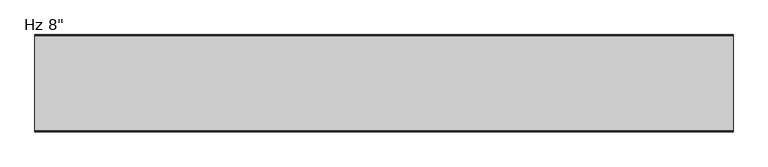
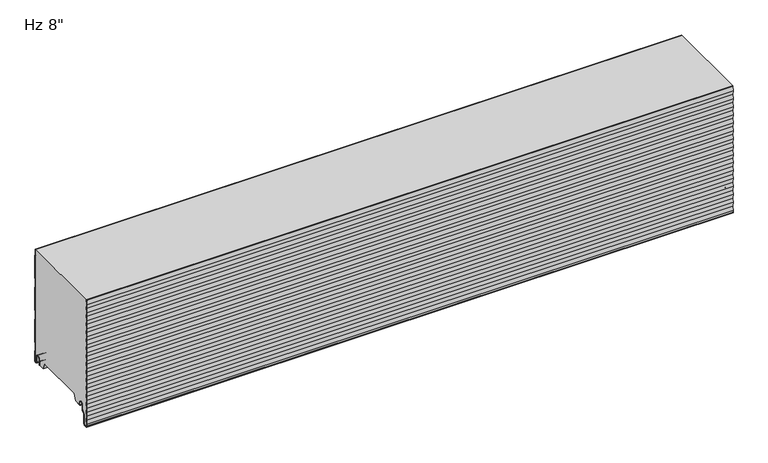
"""IFC4 building model written with IfcOpenShell, lengths in millimetres: plate geometry."""

import ifcopenshell
import ifcopenshell.guid

model = None  # the IFC model being written
_history = None  # IfcOwnerHistory: only IFC2X3 demands one
_inside = {}  # id of a spatial element -> (the spatial element, [elements in it])
_under = {}  # id of a project, library or spatial element -> (it, [spatial elements below it])
_declared = {}  # id of a project -> (the project, [libraries it declares])
_typed = {}  # id of a type object -> (the type object, [elements of that type])
_made_of = {}  # id of a material, layer set ... -> (it, [elements and type objects made of it])


def new_model(schema):
    """Start an empty IFC model of exactly this schema.

    Asked for "IFC4X3", IfcOpenShell would pick the latest addendum, in which some entities
    have other attributes; the version numbers below select the first issue.
    IFC2X3 requires an IfcOwnerHistory on every rooted entity: one is made here for all.
    """
    global model, _history
    if schema == "IFC4X3":
        model = ifcopenshell.file(schema_version=(4, 3, 0, 0))
    else:
        model = ifcopenshell.file(schema=schema)
    _inside.clear()
    _under.clear()
    _declared.clear()
    _typed.clear()
    _made_of.clear()
    _history = None
    if model.schema == "IFC2X3":
        org = make("IfcOrganization", Name="unknown")
        user = make(
            "IfcPersonAndOrganization",
            ThePerson=make("IfcPerson", FamilyName="unknown"),
            TheOrganization=org,
        )
        app = make(
            "IfcApplication",
            ApplicationDeveloper=org,
            Version="unknown",
            ApplicationFullName="unknown",
            ApplicationIdentifier="unknown",
        )
        _history = make(
            "IfcOwnerHistory",
            OwningUser=user,
            OwningApplication=app,
            ChangeAction="ADDED",
            CreationDate=0,
        )
    return model


def make(cls, **values):
    """One entity of the class cls with the attributes given. An attribute that is None is left unset."""
    return model.create_entity(
        cls, **{name: value for name, value in values.items() if value is not None}
    )


def rooted(cls, **values):
    """An entity with a GlobalId (a new one), such as an element, a storey or a relation."""
    return make(cls, GlobalId=ifcopenshell.guid.new(), OwnerHistory=_history, **values)


def si_unit(unit_type, name, prefix=None):
    """IfcSIUnit, for example si_unit("LENGTHUNIT", "METRE", prefix="MILLI")."""
    return make("IfcSIUnit", UnitType=unit_type, Prefix=prefix, Name=name)


def assignment(units):
    """IfcUnitAssignment: the units of a project."""
    return None if units is None else make("IfcUnitAssignment", Units=units)


def point(xyz):
    """IfcCartesianPoint."""
    return None if xyz is None else make("IfcCartesianPoint", Coordinates=xyz)


def direction(xyz):
    """IfcDirection."""
    return None if xyz is None else make("IfcDirection", DirectionRatios=xyz)


def frame(location, z_axis=None, x_axis=None):
    """IfcAxis2Placement3D, a coordinate frame: its origin and axes. An axis left out is left unset."""
    return make(
        "IfcAxis2Placement3D",
        Location=point(location),
        Axis=direction(z_axis),
        RefDirection=direction(x_axis),
    )


def frame_2d(location, x_axis=None):
    """IfcAxis2Placement2D, a coordinate frame in the plane: its origin and x axis."""
    return make(
        "IfcAxis2Placement2D", Location=point(location), RefDirection=direction(x_axis)
    )


def origin():
    """The frame at (0, 0, 0) with its axes left unset."""
    return frame((0.0, 0.0, 0.0))


def place(relative_to, where):
    """IfcLocalPlacement: puts the frame where relative to a parent placement (None: the world)."""
    return make(
        "IfcLocalPlacement", PlacementRelTo=relative_to, RelativePlacement=where
    )


def context(
    kind, dimensions, precision=None, world=None, true_north=None, identifier=None
):
    """IfcGeometricRepresentationContext, for example the 3D "Model" context."""
    return make(
        "IfcGeometricRepresentationContext",
        ContextIdentifier=identifier,
        ContextType=kind,
        CoordinateSpaceDimension=dimensions,
        Precision=precision,
        WorldCoordinateSystem=world,
        TrueNorth=true_north,
    )


def project(units=None, contexts=None):
    """IfcProject with its units and contexts."""
    return rooted(
        "IfcProject",
        Name="project",
        RepresentationContexts=contexts,
        UnitsInContext=assignment(units),
    )


def spatial(cls, under=None, at=None, **own):
    """A site, building, storey or space (cls), placed at a placement, below another one or the project."""
    s = rooted(cls, ObjectPlacement=at, **own)
    if under is not None:
        _under.setdefault(under.id(), (under, []))[1].append(s)
    return s


def polyline(points):
    """IfcPolyline through the points."""
    return make("IfcPolyline", Points=[point(p) for p in points])


def circle_curve(where, radius):
    """IfcCircle in the frame where."""
    return make("IfcCircle", Position=where, Radius=radius)


def trimmed(basis, trim1, trim2, sense, master):
    """IfcTrimmedCurve: the piece of a basis curve between two trims."""
    return make(
        "IfcTrimmedCurve",
        BasisCurve=basis,
        Trim1=trim1,
        Trim2=trim2,
        SenseAgreement=sense,
        MasterRepresentation=master,
    )


def segment(curve, same_sense, transition):
    """IfcCompositeCurveSegment."""
    return make(
        "IfcCompositeCurveSegment",
        Transition=transition,
        SameSense=same_sense,
        ParentCurve=curve,
    )


def composite_curve(segments, self_intersect=None):
    """IfcCompositeCurve: segments joined end to end."""
    return make("IfcCompositeCurve", Segments=segments, SelfIntersect=self_intersect)


def outline(outer, holes=None, kind="AREA"):
    """IfcArbitraryClosedProfileDef: a profile drawn as a closed curve; with holes, ...WithVoids."""
    if holes is None:
        return make("IfcArbitraryClosedProfileDef", ProfileType=kind, OuterCurve=outer)
    return make(
        "IfcArbitraryProfileDefWithVoids",
        ProfileType=kind,
        OuterCurve=outer,
        InnerCurves=holes,
    )


def extrude(swept, where, along, depth):
    """IfcExtrudedAreaSolid: the profile swept, set in the frame where, extruded along a direction by depth."""
    return make(
        "IfcExtrudedAreaSolid",
        SweptArea=swept,
        Position=where,
        ExtrudedDirection=direction(along),
        Depth=depth,
    )


def shape(context_of_items, identifier, shape_type, items):
    """IfcShapeRepresentation: the items that make up one representation, for example the "Body"."""
    return make(
        "IfcShapeRepresentation",
        ContextOfItems=context_of_items,
        RepresentationIdentifier=identifier,
        RepresentationType=shape_type,
        Items=items,
    )


def source(mapping_origin, context_of_items, identifier, shape_type, items):
    """IfcRepresentationMap: a shape defined once, which mapped items show again and again."""
    return make(
        "IfcRepresentationMap",
        MappingOrigin=mapping_origin,
        MappedRepresentation=shape(context_of_items, identifier, shape_type, items),
    )


def transform(
    local_origin,
    x_axis=None,
    y_axis=None,
    z_axis=None,
    scale=None,
    scale2=None,
    scale3=None,
    uniform=True,
):
    """IfcCartesianTransformationOperator3D, or its non-uniform kind. x_axis, y_axis, z_axis: its Axis1, 2, 3."""
    if uniform:
        return make(
            "IfcCartesianTransformationOperator3D",
            Axis1=direction(x_axis),
            Axis2=direction(y_axis),
            LocalOrigin=point(local_origin),
            Scale=scale,
            Axis3=direction(z_axis),
        )
    return make(
        "IfcCartesianTransformationOperator3DnonUniform",
        Axis1=direction(x_axis),
        Axis2=direction(y_axis),
        LocalOrigin=point(local_origin),
        Scale=scale,
        Axis3=direction(z_axis),
        Scale2=scale2,
        Scale3=scale3,
    )


def mapped(mapping_source, mapping_target):
    """IfcMappedItem: shows the shape of a source again, moved by a transform."""
    return make(
        "IfcMappedItem", MappingSource=mapping_source, MappingTarget=mapping_target
    )


def made_of(thing, what):
    """Note that an element or type object is made of a material, layer set ...; save() writes the relation."""
    if what is not None:
        _made_of.setdefault(what.id(), (what, []))[1].append(thing)
    return thing


def element(
    cls,
    number,
    at=None,
    inside=None,
    cuts=None,
    type_object=None,
    material=None,
    context=None,
    identifier="Body",
    shape_type=None,
    held_by="IfcProductDefinitionShape",
    body=None,
    shapes=None,
    **own,
):
    """One element of the class cls, such as IfcWall. Its Tag is "e" and its number.

    at: its placement. inside: the storey or other place that contains it. cuts: it is an
    opening in that element (IfcRelVoidsElement). A single representation is given by context,
    identifier, shape_type and body (its items); several are given by shapes. held_by: the class
    of the entity that holds the representations. save() writes the other relations.
    """
    e = rooted(cls, Tag="e%d" % number, ObjectPlacement=at, **own)
    if body is not None:
        shapes = [shape(context, identifier, shape_type, body)]
    if shapes is not None:
        e.Representation = make(held_by, Representations=shapes)
    if inside is not None:
        _inside.setdefault(inside.id(), (inside, []))[1].append(e)
    if cuts is not None:
        rooted(
            "IfcRelVoidsElement", RelatingBuildingElement=cuts, RelatedOpeningElement=e
        )
    if type_object is not None:
        _typed.setdefault(type_object.id(), (type_object, []))[1].append(e)
    return made_of(e, material)


def aggregate(whole, parts):
    """IfcRelAggregates: a whole, such as a stair, and the parts it consists of."""
    return rooted("IfcRelAggregates", RelatingObject=whole, RelatedObjects=parts)


def save(model, path):
    """Write the relations noted so far, then the file.

    IfcRelAggregates (storeys below a building ...), IfcRelContainedInSpatialStructure (elements
    in a storey), IfcRelDefinesByType, IfcRelAssociatesMaterial and IfcRelDeclares: one each for
    every whole, place, type object, material and project.
    """
    for whole, parts in _under.values():
        aggregate(whole, parts)
    for where, things in _inside.values():
        rooted(
            "IfcRelContainedInSpatialStructure",
            RelatedElements=things,
            RelatingStructure=where,
        )
    for kind, things in _typed.values():
        rooted("IfcRelDefinesByType", RelatedObjects=things, RelatingType=kind)
    for what, things in _made_of.values():
        rooted("IfcRelAssociatesMaterial", RelatedObjects=things, RelatingMaterial=what)
    for by, libraries in _declared.values():
        rooted("IfcRelDeclares", RelatingContext=by, RelatedDefinitions=libraries)
    model.write(path)


def plane_surface(at):
    """IfcPlane: the flat surface through the origin of the frame at, square to its z axis."""
    return make("IfcPlane", Position=at)


def cylinder_surface(at, radius):
    """IfcCylindricalSurface: all points at the distance radius from the z axis of the frame at."""
    return make("IfcCylindricalSurface", Position=at, Radius=radius)


def revolved_surface(curve, axis_point, axis_direction):
    """IfcSurfaceOfRevolution: the curve turned about the line through axis_point along axis_direction."""
    return make(
        "IfcSurfaceOfRevolution",
        SweptCurve=make("IfcArbitraryOpenProfileDef", ProfileType="CURVE", Curve=curve),
        AxisPosition=make("IfcAxis1Placement", Location=point(axis_point), Axis=direction(axis_direction)),
    )


def advanced_brep(points, edges, surfaces, faces):
    """IfcAdvancedBrep: a solid bounded by faces that lie on surfaces and meet in shared edges.

    An edge is (start, end): straight between two places in points (the first is 0);
    or (start, end, curve); or (start, end, curve, False) where it runs against its curve.
    A face is (place in surfaces, loops), or (place, loops, False) where it looks against
    its surface's normal. A loop lists edges by number (the first is 1), with a minus sign
    where the edge is run from its end to its start. The first loop is the outer one.
    """
    corners = [point(p) for p in points]
    vertices = [make("IfcVertexPoint", VertexGeometry=c) for c in corners]
    made = []
    for start, end, *more in edges:
        made.append(
            make(
                "IfcEdgeCurve",
                EdgeStart=vertices[start],
                EdgeEnd=vertices[end],
                EdgeGeometry=more[0] if more else make("IfcPolyline", Points=[corners[start], corners[end]]),
                SameSense=more[1] if len(more) > 1 else True,
            )
        )
    hull = []
    for where, loops, *sense in faces:
        bounds = []
        for j, loop in enumerate(loops):
            ring = [make("IfcOrientedEdge", EdgeElement=made[abs(k) - 1], Orientation=k > 0) for k in loop]
            bounds.append(
                make(
                    "IfcFaceOuterBound" if j == 0 else "IfcFaceBound",
                    Bound=make("IfcEdgeLoop", EdgeList=ring),
                    Orientation=True,
                )
            )
        hull.append(make("IfcAdvancedFace", Bounds=bounds, FaceSurface=surfaces[where], SameSense=sense[0] if sense else True))
    return make("IfcAdvancedBrep", Outer=make("IfcClosedShell", CfsFaces=hull))


def plate_998a4aca(model_context):
    return source(origin(), model_context, "Body", "SolidModel", [
        extrude(outline(composite_curve([segment(trimmed(circle_curve(frame_2d((-2.3985037, -0.4487243)), 2.3999705), [point((-3.12e-05, -0.3639402))], [point((-2.3985037, -2.8486949))], False, "CARTESIAN"), True, "CONTINUOUS"), segment(polyline([(-2.3985037, -2.8486949), (-3.9516205, -2.8486949)]), True, "CONTINUOUS"), segment(trimmed(circle_curve(frame_2d((-3.9516205, 0.3613604)), 3.2100553), [point((-3.9516205, -2.8486949))], [point((-7.1616758, 0.3613604))], False, "CARTESIAN"), True, "CONTINUOUS"), segment(polyline([(-7.1616758, 0.3613604), (-7.1616758, 13.8905885)]), True, "CONTINUOUS"), segment(trimmed(circle_curve(frame_2d((-9.8816619, 13.8905885)), 2.7199861), [point((-7.1616758, 13.8905885))], [point((-9.8816619, 16.6105746))], True, "CARTESIAN"), True, "CONTINUOUS"), segment(polyline([(-9.8816619, 16.6105746), (-13.5282598, 16.6105746)]), True, "CONTINUOUS"), segment(trimmed(circle_curve(frame_2d((-13.5282598, 13.8905782)), 2.7199964), [point((-13.5282598, 16.6105746))], [point((-16.2482561, 13.8905782))], True, "CARTESIAN"), True, "CONTINUOUS"), segment(polyline([(-16.2482561, 13.8905782), (-16.2482561, 1.189897)]), True, "CONTINUOUS"), segment(trimmed(circle_curve(frame_2d((-17.7722572, 1.189897)), 1.524001), [point((-16.2482561, 1.189897))], [point((-19.2731052, 1.454537))], False, "CARTESIAN"), True, "CONTINUOUS"), segment(polyline([(-19.2731052, 1.454537), (-18.1704393, 7.7080661), (-17.2482561, 7.5454603), (-17.2482561, 13.8905782)]), True, "CONTINUOUS"), segment(trimmed(circle_curve(frame_2d((-13.5282598, 13.8905782)), 3.7199964), [point((-17.2482561, 13.8905782))], [point((-13.5282598, 17.6105746))], False, "CARTESIAN"), True, "CONTINUOUS"), segment(polyline([(-13.5282598, 17.6105746), (-9.8816619, 17.6105746)]), True, "CONTINUOUS"), segment(trimmed(circle_curve(frame_2d((-9.8816619, 13.8905885)), 3.7199861), [point((-9.8816619, 17.6105746))], [point((-6.1616758, 13.8905885))], False, "CARTESIAN"), True, "CONTINUOUS"), segment(polyline([(-6.1616758, 13.8905885), (-6.1616758, 0.3613604)]), True, "CONTINUOUS"), segment(trimmed(circle_curve(frame_2d((-3.9516205, 0.3613604)), 2.2100553), [point((-6.1616758, 0.3613604))], [point((-3.9516205, -1.8486949))], True, "CARTESIAN"), True, "CONTINUOUS"), segment(polyline([(-3.9516205, -1.8486949), (-2.3985037, -1.8486949)]), True, "CONTINUOUS"), segment(trimmed(circle_curve(frame_2d((-2.3985037, -0.4487243)), 1.3999705), [point((-2.3985037, -1.8486949))], [point((-1.0000312, -0.3839769))], True, "CARTESIAN"), True, "CONTINUOUS"), segment(polyline([(-1.0000312, -0.3839769), (-1.0000312, 22.2866086), (-2.2002516, 23.486829), (-2.2002516, 43.1222888), (-1.0000209, 44.3225195), (-1.0000209, 98.4864459), (-2.2002516, 99.6866766), (-2.2002516, 119.3221364), (-1.0000209, 120.5223671), (-1.0000209, 174.6698551), (-2.2002516, 175.8700858), (-2.2002516, 195.5055456), (-1.0000209, 196.7057763), (-1.0000209, 250.8532643), (-2.2002516, 252.0534951), (-2.2002516, 266.4), (-1.2002516, 266.4), (-1.2002516, 252.4677086), (-2.09e-05, 251.2674779), (-2.09e-05, 196.2915628), (-1.2002516, 195.091332), (-1.2002516, 176.2842994), (-2.09e-05, 175.0840687), (-2.09e-05, 120.1081535), (-1.2002516, 118.9079228), (-1.2002516, 100.1008902), (-2.09e-05, 98.9006594), (-2.09e-05, 43.9083059), (-1.2002516, 42.7080752), (-1.2002516, 23.9010426), (-3.12e-05, 22.7008222), (-3.12e-05, -0.3639402)]), True, "CONTINUOUS")], self_intersect=False)), frame((-730.0, 0.0, 0.0), z_axis=(1.0, 0.0, 0.0), x_axis=(0.0, 1.0, 0.0)), (0.0, 0.0, 1.0), 1460.0),
        extrude(outline(composite_curve([segment(trimmed(circle_curve(frame_2d((-174.8783207, 0.8654988)), 1.2), [point((-173.6783217, 0.8670134))], [point((-176.0768053, 0.8052116))], False, "CARTESIAN"), True, "CONTINUOUS"), segment(polyline([(-176.0768053, 0.8052116), (-176.0768053, 7.3245305)]), True, "CONTINUOUS"), segment(trimmed(circle_curve(frame_2d((-178.4268053, 7.3245305)), 2.3499999), [point((-176.0768053, 7.3245305))], [point((-178.4268053, 9.6745305))], True, "CARTESIAN"), True, "CONTINUOUS"), segment(polyline([(-178.4268053, 9.6745305), (-182.8268051, 9.6745305)]), True, "CONTINUOUS"), segment(trimmed(circle_curve(frame_2d((-182.8268051, 7.3245305)), 2.3499999), [point((-182.8268051, 9.6745305))], [point((-185.176805, 7.3245305))], True, "CARTESIAN"), True, "CONTINUOUS"), segment(polyline([(-185.176805, 7.3245305), (-185.176805, -4.4863817)]), True, "CONTINUOUS"), segment(trimmed(circle_curve(frame_2d((-187.876805, -4.4863817)), 2.7), [point((-185.176805, -4.4863817))], [point((-185.9676167, -6.39557))], False, "CARTESIAN"), True, "CONTINUOUS"), segment(polyline([(-185.9676167, -6.39557), (-190.7081756, -11.1361289)]), True, "CONTINUOUS"), segment(trimmed(circle_curve(frame_2d((-189.5768048, -12.2674998)), 1.6), [point((-190.7081756, -11.1361289))], [point((-191.1768048, -12.2674998))], True, "CARTESIAN"), True, "CONTINUOUS"), segment(polyline([(-191.1768048, -12.2674998), (-191.1768048, -33.274257)]), True, "CONTINUOUS"), segment(trimmed(circle_curve(frame_2d((-194.8768048, -33.274257)), 3.7), [point((-191.1768048, -33.274257))], [point((-194.5540376, -36.960152))], False, "CARTESIAN"), True, "CONTINUOUS"), segment(polyline([(-194.5540376, -36.960152), (-199.3010262, -37.3758371)]), True, "CONTINUOUS"), segment(trimmed(circle_curve(frame_2d((-199.6116373, -33.8287598)), 3.5606512), [point((-199.3010262, -37.3758371))], [point((-203.1722885, -33.8287598))], False, "CARTESIAN"), True, "CONTINUOUS"), segment(polyline([(-203.1722885, -33.8287598), (-203.1722885, -29.1236881), (-202.1412058, -19.8481845), (-203.2000209, -10.3232036), (-202.1412058, -0.7982226), (-203.2000209, 8.7267583), (-202.1412058, 18.2517393), (-203.2000209, 27.7767202), (-202.1412058, 37.3017012), (-203.2000209, 46.8266821), (-202.1412058, 56.3516631), (-203.2000209, 65.876644), (-202.1412058, 75.401625), (-203.2000209, 84.9266059), (-202.1412058, 94.4515869), (-203.2000209, 103.9765678), (-202.1412058, 113.5015488), (-203.2000209, 123.0265297), (-202.1412058, 132.5515107), (-203.2000209, 142.0764916), (-202.1412058, 151.6014726), (-203.2000209, 161.1264535), (-202.1412058, 170.6514345), (-203.2000209, 180.1764154), (-202.1412058, 189.7013964), (-203.2000209, 199.2263773), (-202.1412058, 208.7513583), (-203.2000209, 218.2763392), (-202.1412058, 227.8013202), (-203.2000209, 237.3263011), (-202.1412058, 246.8512821), (-203.2000209, 256.376263), (-202.1412058, 265.901244), (-202.1966485, 266.4), (-201.1904889, 266.4), (-201.1350463, 265.901244), (-202.1938614, 256.376263), (-201.1350463, 246.8512821), (-202.1938614, 237.3263011), (-201.1350463, 227.8013202), (-202.1938614, 218.2763392), (-201.1350463, 208.7513583), (-202.1938614, 199.2263773), (-201.1350463, 189.7013964), (-202.1938614, 180.1764154), (-201.1350463, 170.6514345), (-202.1938614, 161.1264535), (-201.1350463, 151.6014726), (-202.1938614, 142.0764916), (-201.1350463, 132.5515107), (-202.1938614, 123.0265297), (-201.1350463, 113.5015488), (-202.1938614, 103.9765678), (-201.1350463, 94.4515869), (-202.1938614, 84.9266059), (-201.1350463, 75.401625), (-202.1938614, 65.876644), (-201.1350463, 56.3516631), (-202.1938614, 46.8266821), (-201.1350463, 37.3017012), (-202.1938614, 27.7767202), (-201.1350463, 18.2517393), (-202.1938614, 8.7267583), (-201.1350463, -0.7982226), (-202.1938614, -10.3232036), (-201.1350463, -19.8481845), (-202.1722885, -29.1790984), (-202.1722885, -33.8287598)]), True, "CONTINUOUS"), segment(trimmed(circle_curve(frame_2d((-199.6116373, -33.8287598)), 2.5606512), [point((-202.1722885, -33.8287598))], [point((-199.3882606, -36.3796493))], True, "CARTESIAN"), True, "CONTINUOUS"), segment(polyline([(-199.3882606, -36.3796493), (-194.641272, -35.9639641)]), True, "CONTINUOUS"), segment(trimmed(circle_curve(frame_2d((-194.8768048, -33.274257)), 2.7), [point((-194.641272, -35.9639641))], [point((-192.1768048, -33.274257))], True, "CARTESIAN"), True, "CONTINUOUS"), segment(polyline([(-192.1768048, -33.274257), (-192.1768048, -12.2674998)]), True, "CONTINUOUS"), segment(trimmed(circle_curve(frame_2d((-189.5768048, -12.2674998)), 2.6), [point((-192.1768048, -12.2674998))], [point((-191.4152824, -10.4290221))], False, "CARTESIAN"), True, "CONTINUOUS"), segment(polyline([(-191.4152824, -10.4290221), (-186.6747235, -5.6884632)]), True, "CONTINUOUS"), segment(trimmed(circle_curve(frame_2d((-187.876805, -4.4863817)), 1.7), [point((-186.6747235, -5.6884632))], [point((-186.176805, -4.4863817))], True, "CARTESIAN"), True, "CONTINUOUS"), segment(polyline([(-186.176805, -4.4863817), (-186.176805, 7.3245305)]), True, "CONTINUOUS"), segment(trimmed(circle_curve(frame_2d((-182.8268051, 7.3245305)), 3.3499999), [point((-186.176805, 7.3245305))], [point((-182.8268051, 10.6745305))], False, "CARTESIAN"), True, "CONTINUOUS"), segment(polyline([(-182.8268051, 10.6745305), (-178.4268053, 10.6745305)]), True, "CONTINUOUS"), segment(trimmed(circle_curve(frame_2d((-178.4268053, 7.3245305)), 3.3499999), [point((-178.4268053, 10.6745305))], [point((-175.0768053, 7.3245305))], False, "CARTESIAN"), True, "CONTINUOUS"), segment(polyline([(-175.0768053, 7.3245305), (-175.0768053, 4.6254142), (-173.6783217, 4.6254142), (-173.6783217, 0.8670134)]), True, "CONTINUOUS")], self_intersect=False)), frame((-730.0, 0.0, 0.0), z_axis=(1.0, 0.0, 0.0), x_axis=(0.0, 1.0, 0.0)), (0.0, 0.0, 1.0), 1460.0),
        advanced_brep(
        [(-730.0, -175.0829649, 7.3245305), (-730.0, -178.4329648, 10.6745305), (-730.0, -182.8329646, 10.6745305), (-730.0, -186.1829645, 7.3245305), (-730.0, -186.1829645, -4.4863817), (-730.0, -186.680883, -5.6884632), (-730.0, -191.4214419, -10.4290221), (-730.0, -192.1829643, -12.2674998), (-730.0, -192.1829643, -33.274257), (-730.0, -194.6474315, -35.9639641), (-730.0, -199.3944201, -36.3796493), (-730.0, -202.178448, -33.8287598), (-730.0, -202.178448, -29.1787401), (-730.0, -201.1412058, -19.8478263), (-730.0, -202.2000209, -10.3228453), (-730.0, -201.1412058, -0.7978644), (-730.0, -202.2000209, 8.7271166), (-730.0, -201.1412058, 18.2520975), (-730.0, -202.2000209, 27.7770785), (-730.0, -201.1412058, 37.3020594), (-730.0, -202.2000209, 46.8270404), (-730.0, -201.1412058, 56.3520213), (-730.0, -202.2000209, 65.8770023), (-730.0, -201.1412058, 75.4019832), (-730.0, -202.2000209, 84.9269642), (-730.0, -201.1412058, 94.4519451), (-730.0, -202.2000209, 103.9769261), (-730.0, -201.1412058, 113.501907), (-730.0, -202.2000209, 123.026888), (-730.0, -201.1412058, 132.5518689), (-730.0, -202.2000209, 142.0768499), (-730.0, -201.1412058, 151.6018308), (-730.0, -202.2000209, 161.1268118), (-730.0, -201.1412058, 170.6517927), (-730.0, -202.2000209, 180.1767737), (-730.0, -201.1412058, 189.7017546), (-730.0, -202.2000209, 199.2267356), (-730.0, -201.1412058, 208.7517165), (-730.0, -202.2000209, 218.2766975), (-730.0, -201.1412058, 227.8016784), (-730.0, -202.2000209, 237.3266594), (-730.0, -201.1412058, 246.8516403), (-730.0, -202.2000209, 256.3766213), (-730.0, -201.1412058, 265.9016022), (-730.0, -201.1966086, 266.4), (-730.0, -2.2002516, 266.4), (-730.0, -2.2002516, 252.0534951), (-730.0, -1.0000209, 250.8532643), (-730.0, -1.0000209, 196.7057763), (-730.0, -2.2002516, 195.5055456), (-730.0, -2.2002516, 175.8700858), (-730.0, -1.0000209, 174.6698551), (-730.0, -1.0000209, 120.5223671), (-730.0, -2.2002516, 119.3221364), (-730.0, -2.2002516, 99.6866766), (-730.0, -1.0000209, 98.4864459), (-730.0, -1.0000209, 44.3225195), (-730.0, -2.2002516, 43.1222888), (-730.0, -2.2002516, 23.486829), (-730.0, -1.0000312, 22.2866086), (-730.0, -1.0000312, -0.3839769), (-730.0, -2.3985037, -1.8486949), (-730.0, -3.9516205, -1.8486949), (-730.0, -6.1616758, 0.3613604), (-730.0, -6.1616758, 13.8905885), (-730.0, -9.8816619, 17.6105746), (-730.0, -13.5282598, 17.6105746), (-730.0, -17.2482561, 13.8905782), (-730.0, -17.2482561, 7.5454603), (-730.0, -18.1704393, 7.7080661), (-730.0, -19.2731052, 1.454537), (-730.0, -18.724478, 0.0), (-730.0, -33.5050787, 0.0), (-730.0, -39.1301227, 14.9979533), (-730.0, -153.3686274, 14.9979533), (-730.0, -158.9712822, 0.0), (-730.0, -174.0532693, 0.0), (-730.0, -173.6844813, 0.8670134), (-730.0, -173.6844813, 4.6254142), (-730.0, -175.0829649, 4.6254142), (730.0, -175.0829649, 7.3245305), (730.0, -175.0829649, 4.6254142), (730.0, -173.6844813, 4.6254142), (730.0, -173.6844813, 0.8670134), (730.0, -174.0532693, 0.0), (730.0, -158.9712822, 0.0), (730.0, -153.3470546, 14.9979533), (730.0, -39.1301227, 14.9979533), (730.0, -33.5050787, 0.0), (730.0, -18.724478, 0.0), (730.0, -19.2731052, 1.454537), (730.0, -18.1704393, 7.7080661), (730.0, -17.2482561, 7.5454603), (730.0, -17.2482561, 13.8905782), (730.0, -13.5282598, 17.6105746), (730.0, -9.8816619, 17.6105746), (730.0, -6.1616758, 13.8905885), (730.0, -6.1616758, 0.3613604), (730.0, -3.9516205, -1.8486949), (730.0, -2.3985037, -1.8486949), (730.0, -1.0000312, -0.3839769), (730.0, -1.0000312, 22.2866086), (730.0, -2.2002516, 23.486829), (730.0, -2.2002516, 43.1222888), (730.0, -1.0000209, 44.3225195), (730.0, -1.0000209, 98.4864459), (730.0, -2.2002516, 99.6866766), (730.0, -2.2002516, 119.3221364), (730.0, -1.0000209, 120.5223671), (730.0, -1.0000209, 174.6698551), (730.0, -2.2002516, 175.8700858), (730.0, -2.2002516, 195.5055456), (730.0, -1.0000209, 196.7057763), (730.0, -1.0000209, 250.8532643), (730.0, -2.2002516, 252.0534951), (730.0, -2.2002516, 266.4), (730.0, -201.1966086, 266.4), (730.0, -201.1412058, 265.9016022), (730.0, -202.2000209, 256.3766213), (730.0, -201.1412058, 246.8516403), (730.0, -202.2000209, 237.3266594), (730.0, -201.1412058, 227.8016784), (730.0, -202.2000209, 218.2766975), (730.0, -201.1412058, 208.7517165), (730.0, -202.2000209, 199.2267356), (730.0, -201.1412058, 189.7017546), (730.0, -202.2000209, 180.1767737), (730.0, -201.1412058, 170.6517927), (730.0, -202.2000209, 161.1268118), (730.0, -201.1412058, 151.6018308), (730.0, -202.2000209, 142.0768499), (730.0, -201.1412058, 132.5518689), (730.0, -202.2000209, 123.026888), (730.0, -201.1412058, 113.501907), (730.0, -202.2000209, 103.9769261), (730.0, -201.1412058, 94.4519451), (730.0, -202.2000209, 84.9269642), (730.0, -201.1412058, 75.4019832), (730.0, -202.2000209, 65.8770023), (730.0, -201.1412058, 56.3520213), (730.0, -202.2000209, 46.8270404), (730.0, -201.1412058, 37.3020594), (730.0, -202.2000209, 27.7770785), (730.0, -201.1412058, 18.2520975), (730.0, -202.2000209, 8.7271166), (730.0, -201.1412058, -0.7978644), (730.0, -202.2000209, -10.3228453), (730.0, -201.1412058, -19.8478263), (730.0, -202.178448, -29.1787401), (730.0, -202.178448, -33.8287598), (730.0, -199.3944201, -36.3796493), (730.0, -194.6474315, -35.9639641), (730.0, -192.1829643, -33.274257), (730.0, -192.1829643, -12.2674998), (730.0, -191.4214419, -10.4290221), (730.0, -186.680883, -5.6884632), (730.0, -186.1829645, -4.4863817), (730.0, -186.1829645, 7.3245305), (730.0, -182.8329646, 10.6745305), (730.0, -178.4329648, 10.6745305)],
        [
            (0, 1, circle_curve(frame((-730.0, -178.4329648, 7.3245305), z_axis=(1.0, 0.0, 0.0), x_axis=(0.0, 0.0, -1.0)), 3.3499999)),
            (1, 2),
            (2, 3, circle_curve(frame((-730.0, -182.8329646, 7.3245305), z_axis=(1.0, 0.0, 0.0), x_axis=(0.0, 0.0, -1.0)), 3.3499999)),
            (3, 4),
            (4, 5, circle_curve(frame((-730.0, -187.8829645, -4.4863817), z_axis=(-1.0, 0.0, 0.0), x_axis=(0.0, 0.0, -1.0)), 1.7)),
            (5, 6),
            (6, 7, circle_curve(frame((-730.0, -189.5829643, -12.2674998), z_axis=(1.0, 0.0, 0.0), x_axis=(0.0, 0.0, -1.0)), 2.6)),
            (7, 8),
            (8, 9, circle_curve(frame((-730.0, -194.8829643, -33.274257), z_axis=(-1.0, 0.0, 0.0), x_axis=(0.0, 0.0, -1.0)), 2.7)),
            (9, 10),
            (10, 11, circle_curve(frame((-730.0, -199.6177968, -33.8287598), z_axis=(-1.0, 0.0, 0.0), x_axis=(0.0, 0.0, -1.0)), 2.5606512)),
            (11, 12),
            (12, 13),
            (13, 14),
            (14, 15),
            (15, 16),
            (16, 17),
            (17, 18),
            (18, 19),
            (19, 20),
            (20, 21),
            (21, 22),
            (22, 23),
            (23, 24),
            (24, 25),
            (25, 26),
            (26, 27),
            (27, 28),
            (28, 29),
            (29, 30),
            (30, 31),
            (31, 32),
            (32, 33),
            (33, 34),
            (34, 35),
            (35, 36),
            (36, 37),
            (37, 38),
            (38, 39),
            (39, 40),
            (40, 41),
            (41, 42),
            (42, 43),
            (43, 44),
            (44, 45),
            (45, 46),
            (46, 47),
            (47, 48),
            (48, 49),
            (49, 50),
            (50, 51),
            (51, 52),
            (52, 53),
            (53, 54),
            (54, 55),
            (55, 56),
            (56, 57),
            (57, 58),
            (58, 59),
            (59, 60),
            (60, 61, circle_curve(frame((-730.0, -2.3985037, -0.4487243), z_axis=(-1.0, 0.0, 0.0), x_axis=(0.0, 0.0, -1.0)), 1.3999705)),
            (61, 62),
            (62, 63, circle_curve(frame((-730.0, -3.9516205, 0.3613604), z_axis=(-1.0, 0.0, 0.0), x_axis=(0.0, 0.0, -1.0)), 2.2100553)),
            (63, 64),
            (64, 65, circle_curve(frame((-730.0, -9.8816619, 13.8905885), z_axis=(1.0, 0.0, 0.0), x_axis=(0.0, 0.0, -1.0)), 3.7199861)),
            (65, 66),
            (66, 67, circle_curve(frame((-730.0, -13.5282598, 13.8905782), z_axis=(1.0, 0.0, 0.0), x_axis=(0.0, 0.0, -1.0)), 3.7199964)),
            (67, 68),
            (68, 69),
            (69, 70),
            (70, 71, circle_curve(frame((-730.0, -17.7722572, 1.189897), z_axis=(1.0, 0.0, 0.0), x_axis=(0.0, 0.0, -1.0)), 1.524001)),
            (71, 72),
            (72, 73),
            (73, 74),
            (74, 75),
            (75, 76),
            (76, 77, circle_curve(frame((-730.0, -174.8844803, 0.8654988), z_axis=(1.0, 0.0, 0.0), x_axis=(0.0, 0.0, -1.0)), 1.2)),
            (77, 78),
            (78, 79),
            (79, 0),
            (80, 81),
            (81, 82),
            (82, 83),
            (83, 84, circle_curve(frame((730.0, -174.8844803, 0.8654988), z_axis=(-1.0, 0.0, 0.0), x_axis=(0.0, 0.0, -1.0)), 1.2)),
            (84, 85),
            (85, 86),
            (86, 87),
            (87, 88),
            (88, 89),
            (89, 90, circle_curve(frame((730.0, -17.7722572, 1.189897), z_axis=(-1.0, 0.0, 0.0), x_axis=(0.0, 0.0, -1.0)), 1.524001)),
            (90, 91),
            (91, 92),
            (92, 93),
            (93, 94, circle_curve(frame((730.0, -13.5282598, 13.8905782), z_axis=(-1.0, 0.0, 0.0), x_axis=(0.0, 0.0, -1.0)), 3.7199964)),
            (94, 95),
            (95, 96, circle_curve(frame((730.0, -9.8816619, 13.8905885), z_axis=(-1.0, 0.0, 0.0), x_axis=(0.0, 0.0, -1.0)), 3.7199861)),
            (96, 97),
            (97, 98, circle_curve(frame((730.0, -3.9516205, 0.3613604), z_axis=(1.0, 0.0, 0.0), x_axis=(0.0, 0.0, -1.0)), 2.2100553)),
            (98, 99),
            (99, 100, circle_curve(frame((730.0, -2.3985037, -0.4487243), z_axis=(1.0, 0.0, 0.0), x_axis=(0.0, 0.0, -1.0)), 1.3999705)),
            (100, 101),
            (101, 102),
            (102, 103),
            (103, 104),
            (104, 105),
            (105, 106),
            (106, 107),
            (107, 108),
            (108, 109),
            (109, 110),
            (110, 111),
            (111, 112),
            (112, 113),
            (113, 114),
            (114, 115),
            (115, 116),
            (116, 117),
            (117, 118),
            (118, 119),
            (119, 120),
            (120, 121),
            (121, 122),
            (122, 123),
            (123, 124),
            (124, 125),
            (125, 126),
            (126, 127),
            (127, 128),
            (128, 129),
            (129, 130),
            (130, 131),
            (131, 132),
            (132, 133),
            (133, 134),
            (134, 135),
            (135, 136),
            (136, 137),
            (137, 138),
            (138, 139),
            (139, 140),
            (140, 141),
            (141, 142),
            (142, 143),
            (143, 144),
            (144, 145),
            (145, 146),
            (146, 147),
            (147, 148),
            (148, 149),
            (149, 150, circle_curve(frame((730.0, -199.6177968, -33.8287598), z_axis=(1.0, 0.0, 0.0), x_axis=(0.0, 0.0, -1.0)), 2.5606512)),
            (150, 151),
            (151, 152, circle_curve(frame((730.0, -194.8829643, -33.274257), z_axis=(1.0, 0.0, 0.0), x_axis=(0.0, 0.0, -1.0)), 2.7)),
            (152, 153),
            (153, 154, circle_curve(frame((730.0, -189.5829643, -12.2674998), z_axis=(-1.0, 0.0, 0.0), x_axis=(0.0, 0.0, -1.0)), 2.6)),
            (154, 155),
            (155, 156, circle_curve(frame((730.0, -187.8829645, -4.4863817), z_axis=(1.0, 0.0, 0.0), x_axis=(0.0, 0.0, -1.0)), 1.7)),
            (156, 157),
            (157, 158, circle_curve(frame((730.0, -182.8329646, 7.3245305), z_axis=(-1.0, 0.0, 0.0), x_axis=(0.0, 0.0, -1.0)), 3.3499999)),
            (158, 159),
            (159, 80, circle_curve(frame((730.0, -178.4329648, 7.3245305), z_axis=(-1.0, 0.0, 0.0), x_axis=(0.0, 0.0, -1.0)), 3.3499999)),
            (64, 96),
            (95, 65),
            (63, 97),
            (62, 98),
            (61, 99),
            (60, 100),
            (59, 101),
            (58, 102),
            (57, 103),
            (56, 104),
            (55, 105),
            (54, 106),
            (53, 107),
            (52, 108),
            (51, 109),
            (50, 110),
            (49, 111),
            (48, 112),
            (47, 113),
            (46, 114),
            (45, 115),
            (72, 88),
            (87, 73),
            (71, 89),
            (70, 90),
            (69, 91),
            (68, 92),
            (67, 93),
            (66, 94),
            (86, 74),
            (10, 150),
            (149, 11),
            (9, 151),
            (8, 152),
            (6, 154),
            (153, 7),
            (5, 155),
            (4, 156),
            (3, 157),
            (2, 158),
            (1, 159),
            (75, 85),
            (84, 76),
            (116, 44),
            (43, 117),
            (42, 118),
            (41, 119),
            (40, 120),
            (39, 121),
            (38, 122),
            (37, 123),
            (36, 124),
            (35, 125),
            (34, 126),
            (33, 127),
            (32, 128),
            (31, 129),
            (30, 130),
            (29, 131),
            (28, 132),
            (27, 133),
            (26, 134),
            (25, 135),
            (24, 136),
            (23, 137),
            (22, 138),
            (21, 139),
            (20, 140),
            (19, 141),
            (18, 142),
            (17, 143),
            (16, 144),
            (15, 145),
            (14, 146),
            (13, 147),
            (12, 148),
            (83, 77),
            (82, 78),
            (81, 79),
            (0, 80),
        ],
        [
            plane_surface(frame((-730.0, -202.2000209, 532.8637656), z_axis=(-1.0, 0.0, 0.0), x_axis=(0.0, -1.0, 0.0))),
            plane_surface(frame((730.0, -202.2000209, 532.8637656), z_axis=(1.0, 0.0, 0.0), x_axis=(0.0, -1.0, 0.0))),
            revolved_surface(polyline([(730.0, -9.8816619, 10.1706024), (-730.0, -9.8816619, 10.1706024)]), (-730.0, -9.8816619, 13.8905885), (1.0, 0.0, 0.0)),
            plane_surface(frame((-730.0, -6.1616758, 13.8905885), z_axis=(0.0, -1.0, 0.0), x_axis=(1.0, 0.0, 0.0))),
            cylinder_surface(frame((-730.0, -3.9516205, 0.3613604), z_axis=(-1.0, 0.0, 0.0), x_axis=(0.0, 0.0, -1.0)), 2.2100553),
            plane_surface(frame((-730.0, -3.9516205, -1.8486949), z_axis=(0.0, 0.0, -1.0), x_axis=(1.0, 0.0, 0.0))),
            cylinder_surface(frame((-730.0, -2.3985037, -0.4487243), z_axis=(-1.0, 0.0, 0.0), x_axis=(0.0, 0.0, -1.0)), 1.3999705),
            plane_surface(frame((-730.0, -1.0000312, -0.3839769), z_axis=(0.0, 1.0, 0.0), x_axis=(1.0, 0.0, 0.0))),
            plane_surface(frame((-730.0, -1.0000312, 22.2866086), z_axis=(0.0, 0.7071067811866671, 0.7071067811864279), x_axis=(1.0, 0.0, 0.0))),
            plane_surface(frame((-730.0, -2.2002516, 33.3045589), z_axis=(0.0, 1.0, 0.0), x_axis=(1.0, 0.0, 0.0))),
            plane_surface(frame((-730.0, -2.2002516, 43.1222888), z_axis=(0.0, 0.7071067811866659, -0.7071067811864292), x_axis=(1.0, 0.0, 0.0))),
            plane_surface(frame((-730.0, -1.0000209, 44.3225195), z_axis=(0.0, 1.0, 0.0), x_axis=(1.0, 0.0, 0.0))),
            plane_surface(frame((-730.0, -1.0000209, 98.4864459), z_axis=(0.0, 0.7071067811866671, 0.7071067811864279), x_axis=(1.0, 0.0, 0.0))),
            plane_surface(frame((-730.0, -2.2002516, 109.5044065), z_axis=(0.0, 1.0, 0.0), x_axis=(1.0, 0.0, 0.0))),
            plane_surface(frame((-730.0, -2.2002516, 119.3221364), z_axis=(0.0, 0.7071067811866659, -0.7071067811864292), x_axis=(1.0, 0.0, 0.0))),
            plane_surface(frame((-730.0, -1.0000209, 120.5223671), z_axis=(0.0, 1.0, 0.0), x_axis=(1.0, 0.0, 0.0))),
            plane_surface(frame((-730.0, -1.0000209, 174.6698551), z_axis=(0.0, 0.7071067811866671, 0.7071067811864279), x_axis=(1.0, 0.0, 0.0))),
            plane_surface(frame((-730.0, -2.2002516, 185.6878157), z_axis=(0.0, 1.0, 0.0), x_axis=(1.0, 0.0, 0.0))),
            plane_surface(frame((-730.0, -2.2002516, 195.5055456), z_axis=(0.0, 0.7071067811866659, -0.7071067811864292), x_axis=(1.0, 0.0, 0.0))),
            plane_surface(frame((-730.0, -1.0000209, 196.7057763), z_axis=(0.0, 1.0, 0.0), x_axis=(1.0, 0.0, 0.0))),
            plane_surface(frame((-730.0, -1.0000209, 250.8532643), z_axis=(0.0, 0.7071067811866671, 0.7071067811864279), x_axis=(1.0, 0.0, 0.0))),
            plane_surface(frame((-730.0, -2.2002516, 261.8712249), z_axis=(0.0, 1.0, 0.0), x_axis=(1.0, 0.0, 0.0))),
            plane_surface(frame((-730.0, -39.1301227, 14.9979533), z_axis=(0.0, -0.9363125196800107, -0.35116785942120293), x_axis=(1.0, 0.0, 0.0))),
            plane_surface(frame((-730.0, -33.5050787, 0.0), z_axis=(0.0, 0.0, -1.0), x_axis=(1.0, 0.0, 0.0))),
            revolved_surface(polyline([(730.0, -17.7722572, -0.33410399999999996), (-730.0, -17.7722572, -0.33410399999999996)]), (-730.0, -17.7722572, 1.189897), (1.0, 0.0, 0.0)),
            plane_surface(frame((-730.0, -19.2731052, 1.454537), z_axis=(0.0, 0.9848077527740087, -0.1736481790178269), x_axis=(1.0, 0.0, 0.0))),
            plane_surface(frame((-730.0, -18.1704393, 7.7080661), z_axis=(0.0, -0.17364817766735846, -0.9848077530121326), x_axis=(1.0, 0.0, 0.0))),
            plane_surface(frame((-730.0, -17.2482561, 7.5454603), z_axis=(0.0, 1.0, 0.0), x_axis=(1.0, 0.0, 0.0))),
            revolved_surface(polyline([(730.0, -13.5282598, 10.1705818), (-730.0, -13.5282598, 10.1705818)]), (-730.0, -13.5282598, 13.8905782), (1.0, 0.0, 0.0)),
            plane_surface(frame((-730.0, -13.5282598, 17.6105746), z_axis=(0.0, 0.0, -1.0), x_axis=(1.0, 0.0, 0.0))),
            plane_surface(frame((730.0, -39.1301227, 14.9979533), z_axis=(0.0, 0.0, -1.0), x_axis=(-1.0, 0.0, 0.0))),
            cylinder_surface(frame((-730.0, -199.6177968, -33.8287598), z_axis=(-1.0, 0.0, 0.0), x_axis=(0.0, 0.0, -1.0)), 2.5606512),
            plane_surface(frame((-730.0, -199.3944201, -36.3796493), z_axis=(0.0, 0.08723436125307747, -0.9961878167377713), x_axis=(1.0, 0.0, 0.0))),
            cylinder_surface(frame((-730.0, -194.8829643, -33.274257), z_axis=(-1.0, 0.0, 0.0), x_axis=(0.0, 0.0, -1.0)), 2.7),
            revolved_surface(polyline([(730.0, -189.5829643, -14.8674998), (-730.0, -189.5829643, -14.8674998)]), (-730.0, -189.5829643, -12.2674998), (1.0, 0.0, 0.0)),
            plane_surface(frame((-730.0, -191.4214419, -10.4290221), z_axis=(0.0, 0.7071067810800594, -0.7071067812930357), x_axis=(1.0, 0.0, 0.0))),
            cylinder_surface(frame((-730.0, -187.8829645, -4.4863817), z_axis=(-1.0, 0.0, 0.0), x_axis=(0.0, 0.0, -1.0)), 1.7),
            plane_surface(frame((-730.0, -186.1829645, -4.4863817), z_axis=(0.0, 1.0, 0.0), x_axis=(1.0, 0.0, 0.0))),
            revolved_surface(polyline([(730.0, -182.8329646, 3.9745306), (-730.0, -182.8329646, 3.9745306)]), (-730.0, -182.8329646, 7.3245305), (1.0, 0.0, 0.0)),
            plane_surface(frame((-730.0, -182.8329646, 10.6745305), z_axis=(0.0, 0.0, -1.0), x_axis=(1.0, 0.0, 0.0))),
            plane_surface(frame((-730.0, -174.0532693, 0.0), z_axis=(0.0, 0.0, -1.0), x_axis=(1.0, 0.0, 0.0))),
            plane_surface(frame((-730.0, -158.9712822, 0.0), z_axis=(0.0, 0.9363292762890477, -0.3511231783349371), x_axis=(1.0, 0.0, 0.0))),
            plane_surface(frame((-730.0, -202.2000209, 275.4265832), z_axis=(0.0, -0.9938781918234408, -0.11048140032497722), x_axis=(1.0, 0.0, 0.0))),
            plane_surface(frame((-730.0, -201.1412058, 265.9016022), z_axis=(0.0, -0.993878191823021, 0.11048140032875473), x_axis=(1.0, 0.0, 0.0))),
            plane_surface(frame((-730.0, -202.2000209, 256.3766213), z_axis=(0.0, -0.993878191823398, -0.11048140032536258), x_axis=(1.0, 0.0, 0.0))),
            plane_surface(frame((-730.0, -201.1412058, 246.8516403), z_axis=(0.0, -0.993878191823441, 0.1104814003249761), x_axis=(1.0, 0.0, 0.0))),
            plane_surface(frame((-730.0, -202.2000209, 237.3266594), z_axis=(0.0, -0.9938781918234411, -0.11048140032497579), x_axis=(1.0, 0.0, 0.0))),
            plane_surface(frame((-730.0, -201.1412058, 227.8016784), z_axis=(0.0, -0.993878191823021, 0.11048140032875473), x_axis=(1.0, 0.0, 0.0))),
            plane_surface(frame((-730.0, -202.2000209, 218.2766975), z_axis=(0.0, -0.993878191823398, -0.11048140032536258), x_axis=(1.0, 0.0, 0.0))),
            plane_surface(frame((-730.0, -201.1412058, 208.7517165), z_axis=(0.0, -0.993878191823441, 0.1104814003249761), x_axis=(1.0, 0.0, 0.0))),
            plane_surface(frame((-730.0, -202.2000209, 199.2267356), z_axis=(0.0, -0.9938781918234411, -0.11048140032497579), x_axis=(1.0, 0.0, 0.0))),
            plane_surface(frame((-730.0, -201.1412058, 189.7017546), z_axis=(0.0, -0.993878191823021, 0.11048140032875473), x_axis=(1.0, 0.0, 0.0))),
            plane_surface(frame((-730.0, -202.2000209, 180.1767737), z_axis=(0.0, -0.993878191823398, -0.11048140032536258), x_axis=(1.0, 0.0, 0.0))),
            plane_surface(frame((-730.0, -201.1412058, 170.6517927), z_axis=(0.0, -0.993878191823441, 0.1104814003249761), x_axis=(1.0, 0.0, 0.0))),
            plane_surface(frame((-730.0, -202.2000209, 161.1268118), z_axis=(0.0, -0.9938781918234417, -0.11048140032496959), x_axis=(1.0, 0.0, 0.0))),
            plane_surface(frame((-730.0, -201.1412058, 151.6018308), z_axis=(0.0, -0.993878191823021, 0.1104814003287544), x_axis=(1.0, 0.0, 0.0))),
            plane_surface(frame((-730.0, -202.2000209, 142.0768499), z_axis=(0.0, -0.9938781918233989, -0.11048140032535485), x_axis=(1.0, 0.0, 0.0))),
            plane_surface(frame((-730.0, -201.1412058, 132.5518689), z_axis=(0.0, -0.993878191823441, 0.1104814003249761), x_axis=(1.0, 0.0, 0.0))),
            plane_surface(frame((-730.0, -202.2000209, 123.026888), z_axis=(0.0, -0.9938781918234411, -0.11048140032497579), x_axis=(1.0, 0.0, 0.0))),
            plane_surface(frame((-730.0, -201.1412058, 113.501907), z_axis=(0.0, -0.993878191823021, 0.11048140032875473), x_axis=(1.0, 0.0, 0.0))),
            plane_surface(frame((-730.0, -202.2000209, 103.9769261), z_axis=(0.0, -0.993878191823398, -0.11048140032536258), x_axis=(1.0, 0.0, 0.0))),
            plane_surface(frame((-730.0, -201.1412058, 94.4519451), z_axis=(0.0, -0.993878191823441, 0.1104814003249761), x_axis=(1.0, 0.0, 0.0))),
            plane_surface(frame((-730.0, -202.2000209, 84.9269642), z_axis=(0.0, -0.9938781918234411, -0.11048140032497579), x_axis=(1.0, 0.0, 0.0))),
            plane_surface(frame((-730.0, -201.1412058, 75.4019832), z_axis=(0.0, -0.993878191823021, 0.11048140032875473), x_axis=(1.0, 0.0, 0.0))),
            plane_surface(frame((-730.0, -202.2000209, 65.8770023), z_axis=(0.0, -0.993878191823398, -0.11048140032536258), x_axis=(1.0, 0.0, 0.0))),
            plane_surface(frame((-730.0, -201.1412058, 56.3520213), z_axis=(0.0, -0.993878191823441, 0.1104814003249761), x_axis=(1.0, 0.0, 0.0))),
            plane_surface(frame((-730.0, -202.2000209, 46.8270404), z_axis=(0.0, -0.9938781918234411, -0.11048140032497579), x_axis=(1.0, 0.0, 0.0))),
            plane_surface(frame((-730.0, -201.1412058, 37.3020594), z_axis=(0.0, -0.993878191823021, 0.11048140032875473), x_axis=(1.0, 0.0, 0.0))),
            plane_surface(frame((-730.0, -202.2000209, 27.7770785), z_axis=(0.0, -0.993878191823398, -0.11048140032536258), x_axis=(1.0, 0.0, 0.0))),
            plane_surface(frame((-730.0, -201.1412058, 18.2520975), z_axis=(0.0, -0.993878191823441, 0.1104814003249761), x_axis=(1.0, 0.0, 0.0))),
            plane_surface(frame((-730.0, -202.2000209, 8.7271166), z_axis=(0.0, -0.9938781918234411, -0.11048140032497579), x_axis=(1.0, 0.0, 0.0))),
            plane_surface(frame((-730.0, -201.1412058, -0.7978644), z_axis=(0.0, -0.993878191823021, 0.11048140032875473), x_axis=(1.0, 0.0, 0.0))),
            plane_surface(frame((-730.0, -202.2000209, -10.3228453), z_axis=(0.0, -0.9938781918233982, -0.11048140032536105), x_axis=(1.0, 0.0, 0.0))),
            plane_surface(frame((-730.0, -201.1412058, -19.8478263), z_axis=(0.0, -0.9938781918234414, 0.11048140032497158), x_axis=(1.0, 0.0, 0.0))),
            plane_surface(frame((-730.0, -202.178448, -29.1787401), z_axis=(0.0, -1.0, 0.0), x_axis=(1.0, 0.0, 0.0))),
            revolved_surface(polyline([(730.0, -174.8844803, -0.33450119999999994), (-730.0, -174.8844803, -0.33450119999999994)]), (-730.0, -174.8844803, 0.8654988), (1.0, 0.0, 0.0)),
            plane_surface(frame((-730.0, -173.6844813, 4.6254142), z_axis=(0.0, -1.0, 0.0), x_axis=(1.0, 0.0, 0.0))),
            plane_surface(frame((-730.0, -175.0829649, 4.6254142), z_axis=(0.0, 0.0, -1.0), x_axis=(1.0, 0.0, 0.0))),
            revolved_surface(polyline([(730.0, -178.4329648, 3.9745306), (-730.0, -178.4329648, 3.9745306)]), (-730.0, -178.4329648, 7.3245305), (1.0, 0.0, 0.0)),
            plane_surface(frame((-730.0, -175.0829649, 7.3245305), z_axis=(0.0, -1.0, 0.0), x_axis=(1.0, 0.0, 0.0))),
            plane_surface(frame((-730.0, -192.1829643, -33.274257), z_axis=(0.0, 1.0, 0.0), x_axis=(1.0, 0.0, 0.0))),
            plane_surface(frame((730.0, 11.9999791, 266.4), z_axis=(0.0, 0.0, 1.0), x_axis=(-1.0, 0.0, 0.0))),
        ],
        [
            (0, [[1, 2, 3, 4, 5, 6, 7, 8, 9, 10, 11, 12, 13, 14, 15, 16, 17, 18, 19, 20, 21, 22, 23, 24, 25, 26, 27, 28, 29, 30, 31, 32, 33, 34, 35, 36, 37, 38, 39, 40, 41, 42, 43, 44, 45, 46, 47, 48, 49, 50, 51, 52, 53, 54, 55, 56, 57, 58, 59, 60, 61, 62, 63, 64, 65, 66, 67, 68, 69, 70, 71, 72, 73, 74, 75, 76, 77, 78, 79, 80]]),
            (1, [[81, 82, 83, 84, 85, 86, 87, 88, 89, 90, 91, 92, 93, 94, 95, 96, 97, 98, 99, 100, 101, 102, 103, 104, 105, 106, 107, 108, 109, 110, 111, 112, 113, 114, 115, 116, 117, 118, 119, 120, 121, 122, 123, 124, 125, 126, 127, 128, 129, 130, 131, 132, 133, 134, 135, 136, 137, 138, 139, 140, 141, 142, 143, 144, 145, 146, 147, 148, 149, 150, 151, 152, 153, 154, 155, 156, 157, 158, 159, 160]]),
            (2, [[161, -96, 162, -65]]),
            (3, [[163, -97, -161, -64]]),
            (4, [[164, -98, -163, -63]]),
            (5, [[165, -99, -164, -62]]),
            (6, [[166, -100, -165, -61]]),
            (7, [[167, -101, -166, -60]]),
            (8, [[168, -102, -167, -59]]),
            (9, [[169, -103, -168, -58]]),
            (10, [[170, -104, -169, -57]]),
            (11, [[171, -105, -170, -56]]),
            (12, [[172, -106, -171, -55]]),
            (13, [[173, -107, -172, -54]]),
            (14, [[174, -108, -173, -53]]),
            (15, [[175, -109, -174, -52]]),
            (16, [[176, -110, -175, -51]]),
            (17, [[177, -111, -176, -50]]),
            (18, [[178, -112, -177, -49]]),
            (19, [[179, -113, -178, -48]]),
            (20, [[180, -114, -179, -47]]),
            (21, [[-46, 181, -115, -180]]),
            (22, [[182, -88, 183, -73]]),
            (23, [[184, -89, -182, -72]]),
            (24, [[185, -90, -184, -71]]),
            (25, [[186, -91, -185, -70]]),
            (26, [[187, -92, -186, -69]]),
            (27, [[188, -93, -187, -68]]),
            (28, [[189, -94, -188, -67]]),
            (29, [[-162, -95, -189, -66]]),
            (30, [[190, -74, -183, -87]]),
            (31, [[191, -150, 192, -11]]),
            (32, [[193, -151, -191, -10]]),
            (33, [[194, -152, -193, -9]]),
            (34, [[195, -154, 196, -7]]),
            (35, [[197, -155, -195, -6]]),
            (36, [[198, -156, -197, -5]]),
            (37, [[199, -157, -198, -4]]),
            (38, [[200, -158, -199, -3]]),
            (39, [[201, -159, -200, -2]]),
            (40, [[202, -85, 203, -76]]),
            (41, [[-190, -86, -202, -75]]),
            (42, [[-117, 204, -44, 205]]),
            (43, [[206, -118, -205, -43]]),
            (44, [[207, -119, -206, -42]]),
            (45, [[208, -120, -207, -41]]),
            (46, [[209, -121, -208, -40]]),
            (47, [[210, -122, -209, -39]]),
            (48, [[211, -123, -210, -38]]),
            (49, [[212, -124, -211, -37]]),
            (50, [[213, -125, -212, -36]]),
            (51, [[214, -126, -213, -35]]),
            (52, [[215, -127, -214, -34]]),
            (53, [[216, -128, -215, -33]]),
            (54, [[217, -129, -216, -32]]),
            (55, [[218, -130, -217, -31]]),
            (56, [[219, -131, -218, -30]]),
            (57, [[220, -132, -219, -29]]),
            (58, [[221, -133, -220, -28]]),
            (59, [[222, -134, -221, -27]]),
            (60, [[223, -135, -222, -26]]),
            (61, [[224, -136, -223, -25]]),
            (62, [[225, -137, -224, -24]]),
            (63, [[226, -138, -225, -23]]),
            (64, [[227, -139, -226, -22]]),
            (65, [[228, -140, -227, -21]]),
            (66, [[229, -141, -228, -20]]),
            (67, [[230, -142, -229, -19]]),
            (68, [[231, -143, -230, -18]]),
            (69, [[232, -144, -231, -17]]),
            (70, [[233, -145, -232, -16]]),
            (71, [[234, -146, -233, -15]]),
            (72, [[235, -147, -234, -14]]),
            (73, [[236, -148, -235, -13]]),
            (74, [[-192, -149, -236, -12]]),
            (75, [[-203, -84, 237, -77]]),
            (76, [[-237, -83, 238, -78]]),
            (77, [[-238, -82, 239, -79]]),
            (78, [[240, -160, -201, -1]]),
            (79, [[-239, -81, -240, -80]]),
            (80, [[-196, -153, -194, -8]]),
            (81, [[-204, -116, -181, -45]]),
        ],
    ),
    ])


if __name__ == "__main__":
    model = new_model("IFC4")
    model_context = context("Model", 3, world=origin())
    ifc_project = project(units=[si_unit("LENGTHUNIT", "METRE", prefix="MILLI")], contexts=[model_context])
    site = spatial("IfcSite", under=ifc_project)
    building = spatial("IfcBuilding", under=site)
    placement = place(None, origin())
    plate_shape = plate_998a4aca(model_context)
    element("IfcPlate", 1, ObjectType="KIP-42-KRHF-R19-CP-Hz-MR_SL : Hz 8\"", at=placement, inside=building, context=model_context, shape_type="MappedRepresentation", body=[
        mapped(plate_shape, transform((0.0, 0.0, 0.0), x_axis=(1.0, 0.0, 0.0), y_axis=(0.0, 1.0, 0.0), z_axis=(0.0, 0.0, 1.0))),
    ])
    save(model, "model.ifc")
